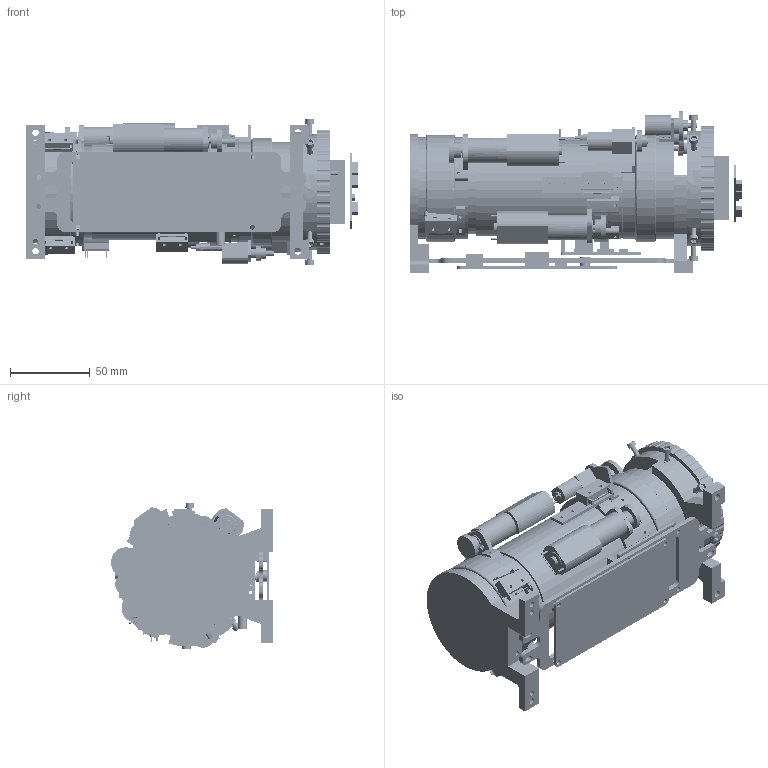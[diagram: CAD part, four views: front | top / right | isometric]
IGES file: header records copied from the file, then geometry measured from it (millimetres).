
Start section: SolidWorks IGES file using analytic representation for surfaces
Bounding box: 207.6 x 101.28 x 91.11 mm (x, y, z)
Surface area: 163011.9 mm2 (no closed solid volume)
Topology: 0 solids, 0 shells, 1609 faces, 27791 edges, 27789 vertices
Faces by surface type: revolution 812, bspline 797
